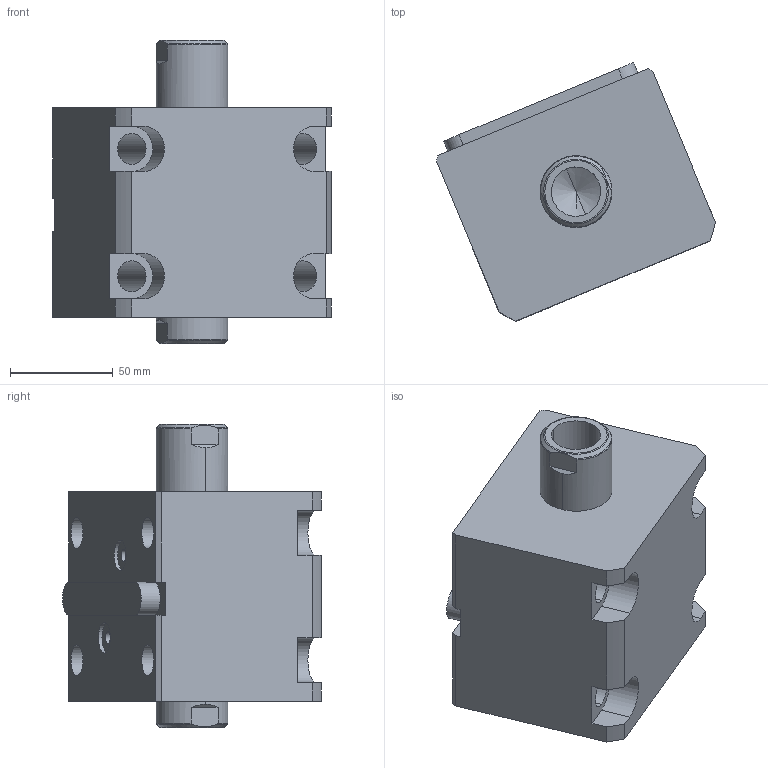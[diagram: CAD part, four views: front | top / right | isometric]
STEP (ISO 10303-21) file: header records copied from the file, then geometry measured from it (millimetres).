
FILE_DESCRIPTION (( 'STEP AP214' ), '1' );
FILE_NAME ('chtb-lwm63x20n_asm.STEP', '2018-05-22T02:11:51', ( 'Windows' ), ( 'Microsoft' ), 'SwSTEP 2.0', 'SolidWorks 2015', '' );
FILE_SCHEMA (( 'AUTOMOTIVE_DESIGN' ));
Length unit declared in the file: millimetre
Products named in the file (5): CHTB-SW63X20NHSG; CHTB-LWM63X20NBT; CHTB-LA63PJ; CHTB-63QG; chtb-lwm63x20n_asm
Assembly tree (4 placements, depth 2):
  chtb-lwm63x20n_asm
    CHTB-63QG
    CHTB-LA63PJ
    CHTB-LWM63X20NBT
    CHTB-SW63X20NHSG
Bounding box: 135.77 x 126.06 x 148 mm (x, y, z)
Volume: 939996.7 mm3; surface area: 146209.5 mm2
Topology: 4 solids, 4 shells, 186 faces, 543 edges, 367 vertices
Faces by surface type: cylinder 103, plane 47, bspline 12, cone 12, torus 12
Entity records: 18665 total; most frequent: CARTESIAN_POINT 13839, ORIENTED_EDGE 1070, DIRECTION 834, EDGE_CURVE 535, VERTEX_POINT 367, AXIS2_PLACEMENT_3D 318, EDGE_LOOP 212, VECTOR 198
